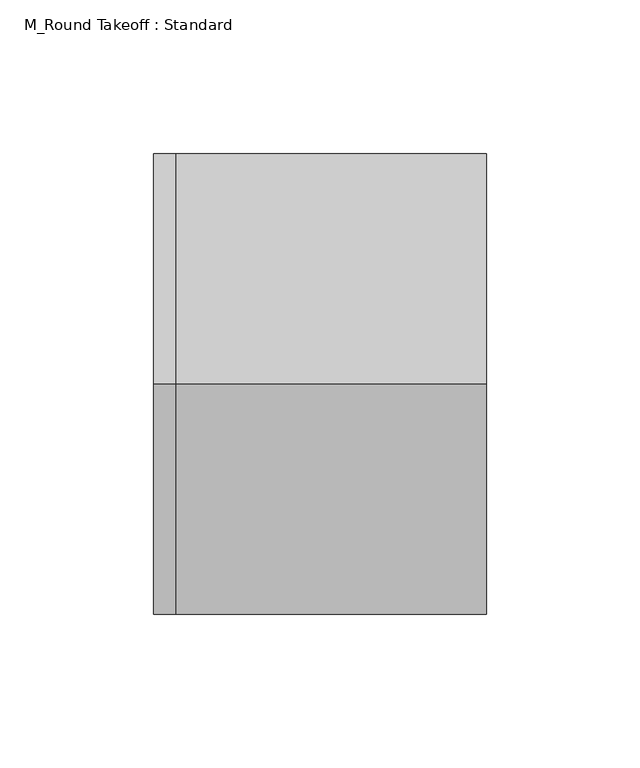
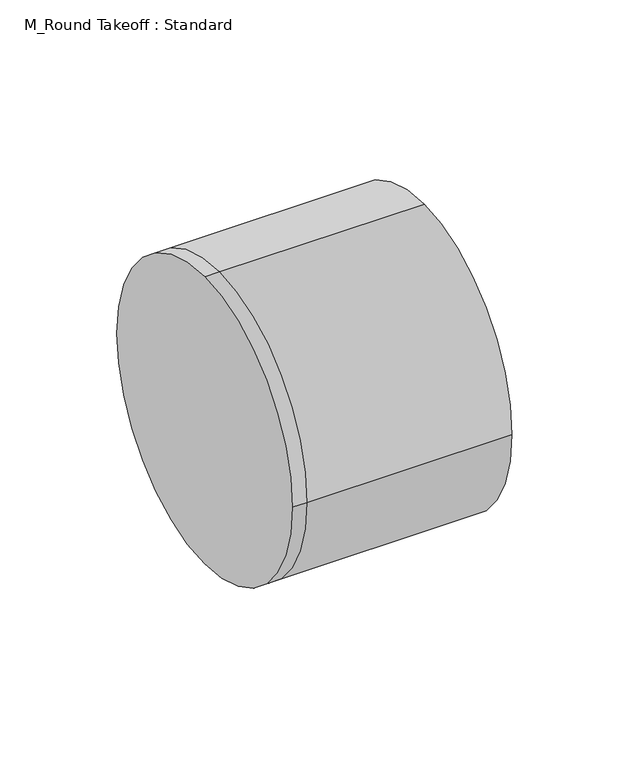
"""IFC4 building model written with IfcOpenShell, lengths in millimetres: duct fitting geometry, M_Round Takeoff : Standard."""

from ifc_helpers import new_model, si_unit, frame, origin, place, context, project, spatial, circle_curve, source, transform, mapped, element, save
from ifc_brep_helpers import plane_surface, cylinder_surface, advanced_brep


def m_round_takeoff_standard_f11fae56(model_context):
    return source(origin(), model_context, "Body", "AdvancedBrep", [
        advanced_brep(
        [(-7.2771158, 0.0, 75.0), (-7.2771158, 75.0, 0.0), (-7.2771158, 0.0, -75.0), (-7.2771158, -75.0, 0.0), (0.0, 0.0, 75.0), (0.0, 75.0, 0.0), (0.0, 0.0, -75.0), (0.0, -75.0, 0.0), (101.1811158, 0.0, 75.0), (101.1811158, -75.0, 0.0), (101.1811158, 0.0, -75.0), (101.1811158, 75.0, 0.0)],
        [
            (0, 1, circle_curve(frame((-7.2771158, 0.0, 0.0), z_axis=(-1.0, 0.0, 0.0), x_axis=(0.0, 1.0, 0.0)), 75.0)),
            (1, 2, circle_curve(frame((-7.2771158, 0.0, 0.0), z_axis=(-1.0, 0.0, 0.0), x_axis=(0.0, 1.0, 0.0)), 75.0)),
            (2, 3, circle_curve(frame((-7.2771158, 0.0, 0.0), z_axis=(-1.0, 0.0, 0.0), x_axis=(0.0, 1.0, 0.0)), 75.0)),
            (3, 0, circle_curve(frame((-7.2771158, 0.0, 0.0), z_axis=(-1.0, 0.0, 0.0), x_axis=(0.0, 1.0, 0.0)), 75.0)),
            (0, 4),
            (4, 5, circle_curve(frame((0.0, 0.0, 0.0), z_axis=(-1.0, 0.0, 0.0), x_axis=(0.0, 1.0, 0.0)), 75.0)),
            (5, 1),
            (5, 6, circle_curve(frame((0.0, 0.0, 0.0), z_axis=(-1.0, 0.0, 0.0), x_axis=(0.0, 1.0, 0.0)), 75.0)),
            (6, 2),
            (6, 7, circle_curve(frame((0.0, 0.0, 0.0), z_axis=(-1.0, 0.0, 0.0), x_axis=(0.0, 1.0, 0.0)), 75.0)),
            (7, 3),
            (7, 4, circle_curve(frame((0.0, 0.0, 0.0), z_axis=(-1.0, 0.0, 0.0), x_axis=(0.0, 1.0, 0.0)), 75.0)),
            (8, 9, circle_curve(frame((101.1811158, 0.0, 0.0), z_axis=(1.0, 0.0, 0.0), x_axis=(0.0, 1.0, 0.0)), 75.0)),
            (9, 10, circle_curve(frame((101.1811158, 0.0, 0.0), z_axis=(1.0, 0.0, 0.0), x_axis=(0.0, 1.0, 0.0)), 75.0)),
            (10, 11, circle_curve(frame((101.1811158, 0.0, 0.0), z_axis=(1.0, 0.0, 0.0), x_axis=(0.0, 1.0, 0.0)), 75.0)),
            (11, 8, circle_curve(frame((101.1811158, 0.0, 0.0), z_axis=(1.0, 0.0, 0.0), x_axis=(0.0, 1.0, 0.0)), 75.0)),
            (11, 5),
            (4, 8),
            (10, 6),
            (9, 7),
        ],
        [
            plane_surface(frame((-7.2771158, 0.0, 0.0), z_axis=(-1.0, 0.0, 0.0), x_axis=(0.0, 0.0, 1.0))),
            cylinder_surface(frame((-7.2771158, 0.0, 0.0), z_axis=(-1.0, 0.0, 0.0), x_axis=(0.0, 1.0, 0.0)), 75.0),
            plane_surface(frame((101.1811158, 0.0, 0.0), z_axis=(1.0, 0.0, 0.0), x_axis=(0.0, 0.0, 1.0))),
            cylinder_surface(frame((0.0, 0.0, 0.0), z_axis=(-1.0, 0.0, 0.0), x_axis=(0.0, 1.0, 0.0)), 75.0),
        ],
        [
            (0, [[1, 2, 3, 4]]),
            (1, [[-1, 5, 6, 7]]),
            (1, [[-2, -7, 8, 9]]),
            (1, [[-3, -9, 10, 11]]),
            (1, [[-4, -11, 12, -5]]),
            (2, [[13, 14, 15, 16]]),
            (3, [[-16, 17, -6, 18]]),
            (3, [[-15, 19, -8, -17]]),
            (3, [[-14, 20, -10, -19]]),
            (3, [[-13, -18, -12, -20]]),
        ],
    ),
        advanced_brep(
        [(101.1811158, 0.0, 75.0), (101.1811158, -75.0, 0.0), (101.1811158, 0.0, -75.0), (101.1811158, 75.0, 0.0), (0.0, 75.0, 0.0), (0.0, 0.0, 75.0), (0.0, 0.0, -75.0), (0.0, -75.0, 0.0), (-7.2771158, 0.0, 75.0), (-7.2771158, 75.0, 0.0), (-7.2771158, 0.0, -75.0), (-7.2771158, -75.0, 0.0)],
        [
            (0, 1, circle_curve(frame((101.1811158, 0.0, 0.0), z_axis=(1.0, 0.0, 0.0), x_axis=(0.0, 1.0, 0.0)), 75.0)),
            (1, 2, circle_curve(frame((101.1811158, 0.0, 0.0), z_axis=(1.0, 0.0, 0.0), x_axis=(0.0, 1.0, 0.0)), 75.0)),
            (2, 3, circle_curve(frame((101.1811158, 0.0, 0.0), z_axis=(1.0, 0.0, 0.0), x_axis=(0.0, 1.0, 0.0)), 75.0)),
            (3, 0, circle_curve(frame((101.1811158, 0.0, 0.0), z_axis=(1.0, 0.0, 0.0), x_axis=(0.0, 1.0, 0.0)), 75.0)),
            (3, 4),
            (4, 5, circle_curve(frame((0.0, 0.0, 0.0), z_axis=(1.0, 0.0, 0.0), x_axis=(0.0, 1.0, 0.0)), 75.0)),
            (5, 0),
            (2, 6),
            (6, 4, circle_curve(frame((0.0, 0.0, 0.0), z_axis=(1.0, 0.0, 0.0), x_axis=(0.0, 1.0, 0.0)), 75.0)),
            (1, 7),
            (7, 6, circle_curve(frame((0.0, 0.0, 0.0), z_axis=(1.0, 0.0, 0.0), x_axis=(0.0, 1.0, 0.0)), 75.0)),
            (5, 7, circle_curve(frame((0.0, 0.0, 0.0), z_axis=(1.0, 0.0, 0.0), x_axis=(0.0, 1.0, 0.0)), 75.0)),
            (8, 9, circle_curve(frame((-7.2771158, 0.0, 0.0), z_axis=(-1.0, 0.0, 0.0), x_axis=(0.0, 1.0, 0.0)), 75.0)),
            (9, 10, circle_curve(frame((-7.2771158, 0.0, 0.0), z_axis=(-1.0, 0.0, 0.0), x_axis=(0.0, 1.0, 0.0)), 75.0)),
            (10, 11, circle_curve(frame((-7.2771158, 0.0, 0.0), z_axis=(-1.0, 0.0, 0.0), x_axis=(0.0, 1.0, 0.0)), 75.0)),
            (11, 8, circle_curve(frame((-7.2771158, 0.0, 0.0), z_axis=(-1.0, 0.0, 0.0), x_axis=(0.0, 1.0, 0.0)), 75.0)),
            (8, 5),
            (4, 9),
            (6, 10),
            (7, 11),
        ],
        [
            plane_surface(frame((101.1811158, 0.0, 0.0), z_axis=(1.0, 0.0, 0.0), x_axis=(0.0, 0.0, 1.0))),
            cylinder_surface(frame((0.0, 0.0, 0.0), z_axis=(-1.0, 0.0, 0.0), x_axis=(0.0, 1.0, 0.0)), 75.0),
            plane_surface(frame((-7.2771158, 0.0, 0.0), z_axis=(-1.0, 0.0, 0.0), x_axis=(0.0, 0.0, 1.0))),
            cylinder_surface(frame((-7.2771158, 0.0, 0.0), z_axis=(-1.0, 0.0, 0.0), x_axis=(0.0, 1.0, 0.0)), 75.0),
        ],
        [
            (0, [[1, 2, 3, 4]]),
            (1, [[-4, 5, 6, 7]]),
            (1, [[-3, 8, 9, -5]]),
            (1, [[-2, 10, 11, -8]]),
            (1, [[-1, -7, 12, -10]]),
            (2, [[13, 14, 15, 16]]),
            (3, [[-13, 17, -6, 18]]),
            (3, [[-14, -18, -9, 19]]),
            (3, [[-15, -19, -11, 20]]),
            (3, [[-16, -20, -12, -17]]),
        ],
    ),
        advanced_brep(
        [(-7.2771158, 0.0, 75.0), (-7.2771158, 75.0, 0.0), (-7.2771158, 0.0, -75.0), (-7.2771158, -75.0, 0.0), (0.0, 0.0, 75.0), (0.0, 75.0, 0.0), (0.0, 0.0, -75.0), (0.0, -75.0, 0.0), (101.1811158, 0.0, 75.0), (101.1811158, -75.0, 0.0), (101.1811158, 0.0, -75.0), (101.1811158, 75.0, 0.0)],
        [
            (0, 1, circle_curve(frame((-7.2771158, 0.0, 0.0), z_axis=(-1.0, 0.0, 0.0), x_axis=(0.0, 1.0, 0.0)), 75.0)),
            (1, 2, circle_curve(frame((-7.2771158, 0.0, 0.0), z_axis=(-1.0, 0.0, 0.0), x_axis=(0.0, 1.0, 0.0)), 75.0)),
            (2, 3, circle_curve(frame((-7.2771158, 0.0, 0.0), z_axis=(-1.0, 0.0, 0.0), x_axis=(0.0, 1.0, 0.0)), 75.0)),
            (3, 0, circle_curve(frame((-7.2771158, 0.0, 0.0), z_axis=(-1.0, 0.0, 0.0), x_axis=(0.0, 1.0, 0.0)), 75.0)),
            (0, 4),
            (4, 5, circle_curve(frame((0.0, 0.0, 0.0), z_axis=(-1.0, 0.0, 0.0), x_axis=(0.0, 1.0, 0.0)), 75.0)),
            (5, 1),
            (5, 6, circle_curve(frame((0.0, 0.0, 0.0), z_axis=(-1.0, 0.0, 0.0), x_axis=(0.0, 1.0, 0.0)), 75.0)),
            (6, 2),
            (6, 7, circle_curve(frame((0.0, 0.0, 0.0), z_axis=(-1.0, 0.0, 0.0), x_axis=(0.0, 1.0, 0.0)), 75.0)),
            (7, 3),
            (7, 4, circle_curve(frame((0.0, 0.0, 0.0), z_axis=(-1.0, 0.0, 0.0), x_axis=(0.0, 1.0, 0.0)), 75.0)),
            (8, 9, circle_curve(frame((101.1811158, 0.0, 0.0), z_axis=(1.0, 0.0, 0.0), x_axis=(0.0, 1.0, 0.0)), 75.0)),
            (9, 10, circle_curve(frame((101.1811158, 0.0, 0.0), z_axis=(1.0, 0.0, 0.0), x_axis=(0.0, 1.0, 0.0)), 75.0)),
            (10, 11, circle_curve(frame((101.1811158, 0.0, 0.0), z_axis=(1.0, 0.0, 0.0), x_axis=(0.0, 1.0, 0.0)), 75.0)),
            (11, 8, circle_curve(frame((101.1811158, 0.0, 0.0), z_axis=(1.0, 0.0, 0.0), x_axis=(0.0, 1.0, 0.0)), 75.0)),
            (11, 5),
            (4, 8),
            (10, 6),
            (9, 7),
        ],
        [
            plane_surface(frame((-7.2771158, 0.0, 0.0), z_axis=(-1.0, 0.0, 0.0), x_axis=(0.0, 0.0, 1.0))),
            cylinder_surface(frame((-7.2771158, 0.0, 0.0), z_axis=(-1.0, 0.0, 0.0), x_axis=(0.0, 1.0, 0.0)), 75.0),
            plane_surface(frame((101.1811158, 0.0, 0.0), z_axis=(1.0, 0.0, 0.0), x_axis=(0.0, 0.0, 1.0))),
            cylinder_surface(frame((0.0, 0.0, 0.0), z_axis=(-1.0, 0.0, 0.0), x_axis=(0.0, 1.0, 0.0)), 75.0),
        ],
        [
            (0, [[1, 2, 3, 4]]),
            (1, [[-1, 5, 6, 7]]),
            (1, [[-2, -7, 8, 9]]),
            (1, [[-3, -9, 10, 11]]),
            (1, [[-4, -11, 12, -5]]),
            (2, [[13, 14, 15, 16]]),
            (3, [[-16, 17, -6, 18]]),
            (3, [[-15, 19, -8, -17]]),
            (3, [[-14, 20, -10, -19]]),
            (3, [[-13, -18, -12, -20]]),
        ],
    ),
    ])


if __name__ == "__main__":
    model = new_model("IFC4")
    model_context = context("Model", 3, world=origin())
    ifc_project = project(units=[si_unit("LENGTHUNIT", "METRE", prefix="MILLI")], contexts=[model_context])
    site = spatial("IfcSite", under=ifc_project)
    building = spatial("IfcBuilding", under=site)
    placement = place(None, origin())
    m_round_takeoff_standard_shape = m_round_takeoff_standard_f11fae56(model_context)
    element("IfcDuctFitting", 1, ObjectType="M_Round Takeoff : Standard", at=placement, inside=building, context=model_context, shape_type="MappedRepresentation", body=[
        mapped(m_round_takeoff_standard_shape, transform((0.0, 0.0, 0.0), x_axis=(1.0, 0.0, 0.0), y_axis=(0.0, 1.0, 0.0), z_axis=(0.0, 0.0, 1.0))),
    ])
    save(model, "model.ifc")
